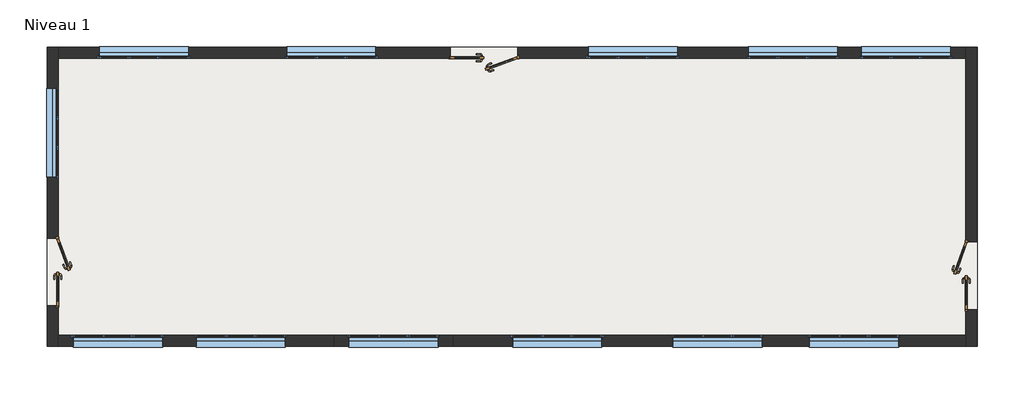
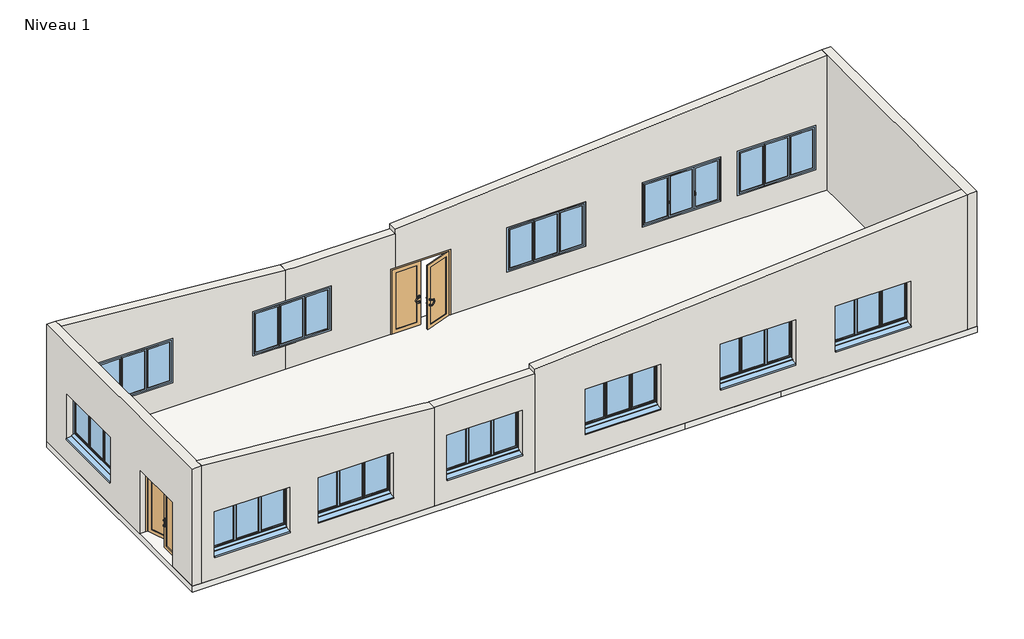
# One storey: 12 windows, 8 walls, 3 doors, 1 slab.
"""IFC4 building model written with IfcOpenShell, lengths in millimetres."""

from ifc_helpers import new_model, si_unit, frame, origin, place, context, project, spatial, polyline, outline, extrude, faceted_brep, transform, mapped, element, save
from components import ext_double_d632f14f, ext_double_bc6d21ab, window_30ed7840

model = new_model("IFC4")

# Units and contexts
model_context = context("Model", 3, world=origin())
ifc_project = project(units=[si_unit("LENGTHUNIT", "METRE", prefix="MILLI")], contexts=[model_context])

# Site, building, storey
site = spatial("IfcSite", under=ifc_project)
building = spatial("IfcBuilding", under=site)
storey = spatial("IfcBuildingStorey", under=building, Name="Niveau 1", Elevation=3300.0)

# Doors
placement = place(None, origin())
ext_double_shape = ext_double_d632f14f(model_context)
element("IfcDoor", 1, ObjectType="Ext. Double : Vitrée - 1.80 m x 2.15 m", at=placement, inside=storey, context=model_context, shape_type="MappedRepresentation", body=[
    mapped(ext_double_shape, transform((12430.4855864, -3140.8814156, 3300.0), x_axis=(0.0, -1.0, 0.0), y_axis=(1.0, 0.0, 0.0), z_axis=(0.0, 0.0, 1.0))),
])
ext_double_2_shape = ext_double_bc6d21ab(model_context)
element("IfcDoor", 2, ObjectType="Ext. Double : Vitrée - 1.80 m x 2.15 m", at=placement, inside=storey, context=model_context, shape_type="MappedRepresentation", body=[
    mapped(ext_double_2_shape, transform((-663.958769, 2859.1185844, 3300.0), x_axis=(-1.0, 0.0, 0.0), y_axis=(0.0, -1.0, 0.0), z_axis=(0.0, 0.0, 1.0))),
])
element("IfcDoor", 3, ObjectType="Ext. Double : Vitrée - 1.80 m x 2.15 m", at=placement, inside=storey, context=model_context, shape_type="MappedRepresentation", body=[
    mapped(ext_double_2_shape, transform((-12233.9657883, -3040.8814156, 3300.0), x_axis=(0.0, -1.0, 0.0), y_axis=(1.0, 0.0, 0.0), z_axis=(0.0, 0.0, 1.0))),
])

# Slab
element("IfcSlab", 4, ObjectType="Dalle en béton - 200", at=placement, inside=storey, context=model_context, shape_type="SweptSolid", body=[
    extrude(outline(polyline([(3280.5386339, 3009.1185844), (6360.5386339, 3009.1185844), (12600.4855864, 3009.1185844), (12600.4855864, -5025.8814156), (6360.5386339, -5025.8814156), (3280.5386339, -5025.8814156), (3280.5386339, -5030.8814156), (-12383.9657883, -5030.8814156), (-12383.9657883, 3009.1185844), (3280.5386339, 3009.1185844)])), frame((0.0, 0.0, 3100.0), z_axis=(0.0, 0.0, 1.0), x_axis=(1.0, 0.0, 0.0)), (0.0, 0.0, 1.0), 200.0),
])

# Walls
element("IfcWall", 5, ObjectType="Ext. Voile BA 18 + Isolant 12", at=placement, inside=storey, context=model_context, shape_type="Brep", body=[
    faceted_brep([(12280.4855864, -5030.8814156, 7840.0), (12280.4855864, 3009.1185844, 7840.0), (12280.4855864, 3009.1185844, 3300.0), (12280.4855864, 2709.1185844, 3300.0), (12280.4855864, -2180.8814156, 3300.0), (12280.4855864, -2180.8814156, 5500.0), (12280.4855864, -4080.8814156, 5500.0), (12280.4855864, -4080.8814156, 3300.0), (12280.4855864, -4730.8814156, 3300.0), (12280.4855864, -5030.8814156, 3300.0), (12580.4855864, 3009.1185844, 7840.0), (12580.4855864, -5030.8814156, 7840.0), (12580.4855864, -5030.8814156, 3300.0), (12580.4855864, -4040.8814156, 3300.0), (12580.4855864, -4040.8814156, 5460.0), (12580.4855864, -2220.8814156, 5460.0), (12580.4855864, -2220.8814156, 3300.0), (12580.4855864, 3009.1185844, 3300.0), (12330.4855864, -4080.8814156, 3300.0), (12330.4855864, -4050.8814156, 3300.0), (12380.4855864, -4050.8814156, 3300.0), (12380.4855864, -4040.8814156, 3300.0), (12380.4855864, -2220.8814156, 3300.0), (12380.4855864, -2210.8814156, 3300.0), (12330.4855864, -2210.8814156, 3300.0), (12330.4855864, -2180.8814156, 3300.0), (12380.4855864, -4040.8814156, 5460.0), (12380.4855864, -2220.8814156, 5460.0), (12330.4855864, -2210.8814156, 5470.0), (12330.4855864, -4050.8814156, 5470.0), (12330.4855864, -4080.8814156, 5500.0), (12330.4855864, -2180.8814156, 5500.0), (12380.4855864, -2210.8814156, 5470.0), (12380.4855864, -4050.8814156, 5470.0)], [[[0, 1, 2, 3, 4, 5, 6, 7, 8, 9]], [[10, 11, 12, 13, 14, 15, 16, 17]], [[12, 9, 8, 7, 18, 19, 20, 21, 13]], [[2, 17, 16, 22, 23, 24, 25, 4, 3]], [[1, 0, 11, 10]], [[0, 9, 12, 11]], [[2, 1, 10, 17]], [[26, 27, 15, 14]], [[21, 26, 14, 13]], [[27, 22, 16, 15]], [[24, 28, 29, 19, 18, 30, 31, 25]], [[28, 24, 23, 32]], [[27, 26, 21, 20, 33, 32, 23, 22]], [[25, 31, 5, 4]], [[29, 28, 32, 33]], [[31, 30, 6, 5]], [[19, 29, 33, 20]], [[30, 18, 7, 6]]]),
])
element("IfcWall", 6, ObjectType="Ext. Voile BA 18 + Isolant 12", at=placement, inside=storey, context=model_context, shape_type="Brep", body=[
    faceted_brep([(-12083.9657883, 3009.1185844, 7240.0), (-12083.9657883, -5030.8814156, 7240.0), (-12083.9657883, -5030.8814156, 3300.0), (-12083.9657883, -4730.8814156, 3300.0), (-12083.9657883, -3980.8814156, 3300.0), (-12083.9657883, -3980.8814156, 5500.0), (-12083.9657883, -2080.8814156, 5500.0), (-12083.9657883, -2080.8814156, 3300.0), (-12083.9657883, 2709.1185844, 3300.0), (-12083.9657883, 3009.1185844, 3300.0), (-12083.9657883, 1959.1185844, 4100.0), (-12083.9657883, -540.8814156, 4100.0), (-12083.9657883, -540.8814156, 5600.0), (-12083.9657883, 1959.1185844, 5600.0), (-12383.9657883, -5030.8814156, 7240.0), (-12383.9657883, 3009.1185844, 7240.0), (-12383.9657883, 3009.1185844, 3300.0), (-12383.9657883, -2120.8814156, 3300.0), (-12383.9657883, -2120.8814156, 5460.0), (-12383.9657883, -3940.8814156, 5460.0), (-12383.9657883, -3940.8814156, 3300.0), (-12383.9657883, -5030.8814156, 3300.0), (-12383.9657883, -490.8814156, 5550.0), (-12383.9657883, -490.8814156, 4020.0), (-12383.9657883, 1909.1185844, 4020.0), (-12383.9657883, 1909.1185844, 5550.0), (-12133.9657883, -2080.8814156, 3300.0), (-12133.9657883, -2110.8814156, 3300.0), (-12183.9657883, -2110.8814156, 3300.0), (-12183.9657883, -2120.8814156, 3300.0), (-12183.9657883, -3940.8814156, 3300.0), (-12183.9657883, -3950.8814156, 3300.0), (-12133.9657883, -3950.8814156, 3300.0), (-12133.9657883, -3980.8814156, 3300.0), (-12163.9657883, -490.8814156, 4100.0), (-12163.9657883, -490.8814156, 4020.0), (-12183.9657883, -490.8814156, 5550.0), (-12183.9657883, -490.8814156, 4100.0), (-12163.9657883, 1909.1185844, 4020.0), (-12163.9657883, 1909.1185844, 4100.0), (-12183.9657883, 1909.1185844, 4100.0), (-12183.9657883, 1909.1185844, 5550.0), (-12183.9657883, -500.8814156, 4100.0), (-12133.9657883, -500.8814156, 4100.0), (-12133.9657883, -540.8814156, 4100.0), (-12133.9657883, 1959.1185844, 4100.0), (-12133.9657883, 1919.1185844, 4100.0), (-12183.9657883, 1919.1185844, 4100.0), (-12133.9657883, -540.8814156, 5600.0), (-12133.9657883, -500.8814156, 5560.0), (-12133.9657883, 1919.1185844, 5560.0), (-12133.9657883, 1959.1185844, 5600.0), (-12183.9657883, -500.8814156, 5560.0), (-12183.9657883, 1919.1185844, 5560.0), (-12183.9657883, -2120.8814156, 5460.0), (-12183.9657883, -3940.8814156, 5460.0), (-12133.9657883, -2080.8814156, 5500.0), (-12133.9657883, -3980.8814156, 5500.0), (-12133.9657883, -3950.8814156, 5470.0), (-12133.9657883, -2110.8814156, 5470.0), (-12183.9657883, -2110.8814156, 5470.0), (-12183.9657883, -3950.8814156, 5470.0)], [[[0, 1, 2, 3, 4, 5, 6, 7, 8, 9], [10, 11, 12, 13]], [[14, 15, 16, 17, 18, 19, 20, 21], [22, 23, 24, 25]], [[16, 9, 8, 7, 26, 27, 28, 29, 17]], [[2, 21, 20, 30, 31, 32, 33, 4, 3]], [[1, 0, 15, 14]], [[0, 9, 16, 15]], [[2, 1, 14, 21]], [[34, 35, 23, 22, 36, 37]], [[38, 39, 40, 41, 25, 24]], [[35, 38, 24, 23]], [[35, 34, 39, 38]], [[22, 25, 41, 36]], [[39, 34, 37, 42, 43, 44, 11, 10, 45, 46, 47, 40]], [[11, 44, 48, 12]], [[44, 43, 49, 50, 46, 45, 51, 48]], [[43, 42, 52, 49]], [[42, 37, 36, 41, 40, 47, 53, 52]], [[12, 48, 51, 13]], [[50, 49, 52, 53]], [[51, 45, 10, 13]], [[46, 50, 53, 47]], [[54, 55, 19, 18]], [[55, 30, 20, 19]], [[29, 54, 18, 17]], [[26, 56, 57, 33, 32, 58, 59, 27]], [[27, 59, 60, 28]], [[55, 54, 29, 28, 60, 61, 31, 30]], [[56, 26, 7, 6]], [[59, 58, 61, 60]], [[57, 56, 6, 5]], [[58, 32, 31, 61]], [[33, 57, 5, 4]]]),
])
element("IfcWall", 7, ObjectType="Ext. Voile BA 18 + Isolant 12", at=placement, inside=storey, context=model_context, shape_type="Brep", body=[
    faceted_brep([(-4685.3436617, -4730.8814156, 3300.0), (-12083.9657883, -4730.8814156, 3300.0), (-12083.9657883, -4730.8814156, 7240.0), (-4858.7495049, -4730.8814156, 6630.0), (-4685.3436617, -4730.8814156, 6615.3599449), (-11733.9657883, -4730.8814156, 4100.0), (-9233.9657883, -4730.8814156, 4100.0), (-9233.9657883, -4730.8814156, 5600.0), (-11733.9657883, -4730.8814156, 5600.0), (-8435.3436617, -4730.8814156, 4100.0), (-5935.3436617, -4730.8814156, 4100.0), (-5935.3436617, -4730.8814156, 5600.0), (-8435.3436617, -4730.8814156, 5600.0), (-4685.3436617, -5030.8814156, 3300.0), (-4685.3436617, -5030.8814156, 6615.3599449), (-12083.9657883, -5030.8814156, 7240.0), (-12083.9657883, -5030.8814156, 3300.0), (-9283.9657883, -5030.8814156, 5550.0), (-9283.9657883, -5030.8814156, 4020.0), (-11683.9657883, -5030.8814156, 4020.0), (-11683.9657883, -5030.8814156, 5550.0), (-5985.3436617, -5030.8814156, 5550.0), (-5985.3436617, -5030.8814156, 4020.0), (-8385.3436617, -5030.8814156, 4020.0), (-8385.3436617, -5030.8814156, 5550.0), (-4685.3436617, -4733.5814156, 6615.3599449), (-9283.9657883, -4810.8814156, 4100.0), (-9283.9657883, -4810.8814156, 4020.0), (-9283.9657883, -4830.8814156, 5550.0), (-9283.9657883, -4830.8814156, 4100.0), (-11683.9657883, -4810.8814156, 4020.0), (-11683.9657883, -4810.8814156, 4100.0), (-11683.9657883, -4830.8814156, 4100.0), (-11683.9657883, -4830.8814156, 5550.0), (-9273.9657883, -4830.8814156, 4100.0), (-9273.9657883, -4780.8814156, 4100.0), (-9233.9657883, -4780.8814156, 4100.0), (-11733.9657883, -4780.8814156, 4100.0), (-11693.9657883, -4780.8814156, 4100.0), (-11693.9657883, -4830.8814156, 4100.0), (-9233.9657883, -4780.8814156, 5600.0), (-9273.9657883, -4780.8814156, 5560.0), (-11693.9657883, -4780.8814156, 5560.0), (-11733.9657883, -4780.8814156, 5600.0), (-9273.9657883, -4830.8814156, 5560.0), (-11693.9657883, -4830.8814156, 5560.0), (-5985.3436617, -4810.8814156, 4100.0), (-5985.3436617, -4810.8814156, 4020.0), (-5985.3436617, -4830.8814156, 5550.0), (-5985.3436617, -4830.8814156, 4100.0), (-8385.3436617, -4810.8814156, 4020.0), (-8385.3436617, -4810.8814156, 4100.0), (-8385.3436617, -4830.8814156, 4100.0), (-8385.3436617, -4830.8814156, 5550.0), (-5975.3436617, -4830.8814156, 4100.0), (-5975.3436617, -4780.8814156, 4100.0), (-5935.3436617, -4780.8814156, 4100.0), (-8435.3436617, -4780.8814156, 4100.0), (-8395.3436617, -4780.8814156, 4100.0), (-8395.3436617, -4830.8814156, 4100.0), (-5935.3436617, -4780.8814156, 5600.0), (-5975.3436617, -4780.8814156, 5560.0), (-8395.3436617, -4780.8814156, 5560.0), (-8435.3436617, -4780.8814156, 5600.0), (-5975.3436617, -4830.8814156, 5560.0), (-8395.3436617, -4830.8814156, 5560.0)], [[[0, 1, 2, 3, 4], [5, 6, 7, 8], [9, 10, 11, 12]], [[13, 14, 15, 16], [17, 18, 19, 20], [21, 22, 23, 24]], [[1, 0, 13, 16]], [[0, 4, 25, 14, 13]], [[4, 3, 2, 15, 14, 25]], [[2, 1, 16, 15]], [[26, 27, 18, 17, 28, 29]], [[30, 31, 32, 33, 20, 19]], [[27, 30, 19, 18]], [[27, 26, 31, 30]], [[17, 20, 33, 28]], [[31, 26, 29, 34, 35, 36, 6, 5, 37, 38, 39, 32]], [[6, 36, 40, 7]], [[36, 35, 41, 42, 38, 37, 43, 40]], [[35, 34, 44, 41]], [[34, 29, 28, 33, 32, 39, 45, 44]], [[7, 40, 43, 8]], [[42, 41, 44, 45]], [[43, 37, 5, 8]], [[38, 42, 45, 39]], [[46, 47, 22, 21, 48, 49]], [[50, 51, 52, 53, 24, 23]], [[47, 50, 23, 22]], [[47, 46, 51, 50]], [[21, 24, 53, 48]], [[51, 46, 49, 54, 55, 56, 10, 9, 57, 58, 59, 52]], [[10, 56, 60, 11]], [[56, 55, 61, 62, 58, 57, 63, 60]], [[55, 54, 64, 61]], [[54, 49, 48, 53, 52, 59, 65, 64]], [[11, 60, 63, 12]], [[62, 61, 64, 65]], [[63, 57, 9, 12]], [[58, 62, 65, 59]]]),
])
element("IfcWall", 8, ObjectType="Ext. Voile BA 18 + Isolant 12", at=placement, inside=storey, context=model_context, shape_type="Brep", body=[
    faceted_brep([(-12083.9657883, 2709.1185844, 3300.0), (-4952.668752, 2709.1185844, 3300.0), (-4952.668752, 2709.1185844, 4100.0), (-5952.668752, 2709.1185844, 4100.0), (-6002.668752, 2709.1185844, 4100.0), (-6002.668752, 2709.1185844, 5600.0), (-4952.668752, 2709.1185844, 5600.0), (-4952.668752, 2709.1185844, 6630.0), (-4952.668752, 2709.1185844, 6637.9292769), (-12083.9657883, 2709.1185844, 7240.0), (-8533.9657883, 2709.1185844, 4100.0), (-11033.9657883, 2709.1185844, 4100.0), (-11033.9657883, 2709.1185844, 5600.0), (-8533.9657883, 2709.1185844, 5600.0), (-4952.668752, 3009.1185844, 3300.0), (-12083.9657883, 3009.1185844, 3300.0), (-12083.9657883, 3009.1185844, 7240.0), (-4952.668752, 3009.1185844, 6637.9292769), (-4952.668752, 3009.1185844, 6630.0), (-4952.668752, 3009.1185844, 5550.0), (-5952.668752, 3009.1185844, 5550.0), (-5952.668752, 3009.1185844, 4020.0), (-4952.668752, 3009.1185844, 4020.0), (-10983.9657883, 3009.1185844, 5550.0), (-10983.9657883, 3009.1185844, 4020.0), (-8583.9657883, 3009.1185844, 4020.0), (-8583.9657883, 3009.1185844, 5550.0), (-4952.668752, 2759.1185844, 5600.0), (-4952.668752, 2759.1185844, 5560.0), (-4952.668752, 2809.1185844, 5560.0), (-4952.668752, 2809.1185844, 5550.0), (-4952.668752, 2789.1185844, 4020.0), (-4952.668752, 2789.1185844, 4100.0), (-10983.9657883, 2789.1185844, 4100.0), (-10983.9657883, 2789.1185844, 4020.0), (-10983.9657883, 2809.1185844, 5550.0), (-10983.9657883, 2809.1185844, 4100.0), (-8583.9657883, 2789.1185844, 4020.0), (-8583.9657883, 2789.1185844, 4100.0), (-8583.9657883, 2809.1185844, 4100.0), (-8583.9657883, 2809.1185844, 5550.0), (-10993.9657883, 2809.1185844, 4100.0), (-10993.9657883, 2759.1185844, 4100.0), (-11033.9657883, 2759.1185844, 4100.0), (-8533.9657883, 2759.1185844, 4100.0), (-8573.9657883, 2759.1185844, 4100.0), (-8573.9657883, 2809.1185844, 4100.0), (-11033.9657883, 2759.1185844, 5600.0), (-10993.9657883, 2759.1185844, 5560.0), (-8573.9657883, 2759.1185844, 5560.0), (-8533.9657883, 2759.1185844, 5600.0), (-10993.9657883, 2809.1185844, 5560.0), (-8573.9657883, 2809.1185844, 5560.0), (-5952.668752, 2789.1185844, 4100.0), (-5952.668752, 2789.1185844, 4020.0), (-5952.668752, 2809.1185844, 5550.0), (-5952.668752, 2809.1185844, 4100.0), (-5962.668752, 2809.1185844, 4100.0), (-5962.668752, 2759.1185844, 4100.0), (-6002.668752, 2759.1185844, 4100.0), (-6002.668752, 2759.1185844, 5600.0), (-5962.668752, 2759.1185844, 5560.0), (-5962.668752, 2809.1185844, 5560.0)], [[[0, 1, 2, 3, 4, 5, 6, 7, 8, 9], [10, 11, 12, 13]], [[14, 15, 16, 17, 18, 19, 20, 21, 22], [23, 24, 25, 26]], [[1, 0, 15, 14]], [[17, 8, 7, 6, 27, 28, 29, 30, 19, 18]], [[1, 14, 22, 31, 32, 2]], [[0, 9, 16, 15]], [[9, 8, 17, 16]], [[33, 34, 24, 23, 35, 36]], [[37, 38, 39, 40, 26, 25]], [[24, 34, 37, 25]], [[34, 33, 38, 37]], [[35, 23, 26, 40]], [[33, 36, 41, 42, 43, 11, 10, 44, 45, 46, 39, 38]], [[11, 43, 47, 12]], [[43, 42, 48, 49, 45, 44, 50, 47]], [[42, 41, 51, 48]], [[36, 35, 40, 39, 46, 52, 51, 41]], [[12, 47, 50, 13]], [[49, 48, 51, 52]], [[44, 10, 13, 50]], [[46, 45, 49, 52]], [[53, 54, 21, 20, 55, 56]], [[53, 56, 57, 58, 59, 4, 3, 2, 32]], [[55, 20, 19, 30]], [[21, 54, 31, 22]], [[54, 53, 32, 31]], [[4, 59, 60, 5]], [[59, 58, 61, 28, 27, 60]], [[58, 57, 62, 61]], [[56, 55, 30, 29, 62, 57]], [[5, 60, 27, 6]], [[61, 62, 29, 28]]]),
])
element("IfcWall", 9, ObjectType="Ext. Voile BA 18 + Isolant 12", at=placement, inside=storey, context=model_context, shape_type="Brep", body=[
    faceted_brep([(12280.4855864, 2709.1185844, 3300.0), (12280.4855864, 2709.1185844, 7840.0), (-1453.958769, 2709.1185844, 6787.7386643), (-1453.958769, 2709.1185844, 6630.0), (-1453.958769, 2709.1185844, 5500.0), (296.041231, 2709.1185844, 5500.0), (296.041231, 2709.1185844, 3300.0), (4596.041231, 2709.1185844, 4100.0), (2096.041231, 2709.1185844, 4100.0), (2096.041231, 2709.1185844, 5600.0), (4596.041231, 2709.1185844, 5600.0), (8896.041231, 2709.1185844, 4100.0), (6396.041231, 2709.1185844, 4100.0), (6396.041231, 2709.1185844, 5600.0), (8896.041231, 2709.1185844, 5600.0), (11930.4855864, 2709.1185844, 4100.0), (9430.4855864, 2709.1185844, 4100.0), (9430.4855864, 2709.1185844, 5600.0), (11930.4855864, 2709.1185844, 5600.0), (12280.4855864, 3009.1185844, 7840.0), (12280.4855864, 3009.1185844, 3300.0), (256.041231, 3009.1185844, 3300.0), (256.041231, 3009.1185844, 5460.0), (-1453.958769, 3009.1185844, 5460.0), (-1453.958769, 3009.1185844, 6630.0), (-1453.958769, 3009.1185844, 6787.7386643), (2146.041231, 3009.1185844, 5550.0), (2146.041231, 3009.1185844, 4020.0), (4546.041231, 3009.1185844, 4020.0), (4546.041231, 3009.1185844, 5550.0), (6446.041231, 3009.1185844, 5550.0), (6446.041231, 3009.1185844, 4020.0), (8846.041231, 3009.1185844, 4020.0), (8846.041231, 3009.1185844, 5550.0), (9480.4855864, 3009.1185844, 5550.0), (9480.4855864, 3009.1185844, 4020.0), (11880.4855864, 3009.1185844, 4020.0), (11880.4855864, 3009.1185844, 5550.0), (296.041231, 2759.1185844, 3300.0), (266.041231, 2759.1185844, 3300.0), (266.041231, 2809.1185844, 3300.0), (256.041231, 2809.1185844, 3300.0), (-1453.958769, 2809.1185844, 5460.0), (-1453.958769, 2809.1185844, 5470.0), (-1453.958769, 2759.1185844, 5470.0), (-1453.958769, 2759.1185844, 5500.0), (2146.041231, 2789.1185844, 4100.0), (2146.041231, 2789.1185844, 4020.0), (2146.041231, 2809.1185844, 5550.0), (2146.041231, 2809.1185844, 4100.0), (4546.041231, 2789.1185844, 4020.0), (4546.041231, 2789.1185844, 4100.0), (4546.041231, 2809.1185844, 4100.0), (4546.041231, 2809.1185844, 5550.0), (2136.041231, 2809.1185844, 4100.0), (2136.041231, 2759.1185844, 4100.0), (2096.041231, 2759.1185844, 4100.0), (4596.041231, 2759.1185844, 4100.0), (4556.041231, 2759.1185844, 4100.0), (4556.041231, 2809.1185844, 4100.0), (2096.041231, 2759.1185844, 5600.0), (2136.041231, 2759.1185844, 5560.0), (4556.041231, 2759.1185844, 5560.0), (4596.041231, 2759.1185844, 5600.0), (2136.041231, 2809.1185844, 5560.0), (4556.041231, 2809.1185844, 5560.0), (6446.041231, 2789.1185844, 4100.0), (6446.041231, 2789.1185844, 4020.0), (6446.041231, 2809.1185844, 5550.0), (6446.041231, 2809.1185844, 4100.0), (8846.041231, 2789.1185844, 4020.0), (8846.041231, 2789.1185844, 4100.0), (8846.041231, 2809.1185844, 4100.0), (8846.041231, 2809.1185844, 5550.0), (6436.041231, 2809.1185844, 4100.0), (6436.041231, 2759.1185844, 4100.0), (6396.041231, 2759.1185844, 4100.0), (8896.041231, 2759.1185844, 4100.0), (8856.041231, 2759.1185844, 4100.0), (8856.041231, 2809.1185844, 4100.0), (6396.041231, 2759.1185844, 5600.0), (6436.041231, 2759.1185844, 5560.0), (8856.041231, 2759.1185844, 5560.0), (8896.041231, 2759.1185844, 5600.0), (6436.041231, 2809.1185844, 5560.0), (8856.041231, 2809.1185844, 5560.0), (9480.4855864, 2789.1185844, 4100.0), (9480.4855864, 2789.1185844, 4020.0), (9480.4855864, 2809.1185844, 5550.0), (9480.4855864, 2809.1185844, 4100.0), (11880.4855864, 2789.1185844, 4020.0), (11880.4855864, 2789.1185844, 4100.0), (11880.4855864, 2809.1185844, 4100.0), (11880.4855864, 2809.1185844, 5550.0), (9470.4855864, 2809.1185844, 4100.0), (9470.4855864, 2759.1185844, 4100.0), (9430.4855864, 2759.1185844, 4100.0), (11930.4855864, 2759.1185844, 4100.0), (11890.4855864, 2759.1185844, 4100.0), (11890.4855864, 2809.1185844, 4100.0), (9430.4855864, 2759.1185844, 5600.0), (9470.4855864, 2759.1185844, 5560.0), (11890.4855864, 2759.1185844, 5560.0), (11930.4855864, 2759.1185844, 5600.0), (9470.4855864, 2809.1185844, 5560.0), (11890.4855864, 2809.1185844, 5560.0), (256.041231, 2809.1185844, 5460.0), (296.041231, 2759.1185844, 5500.0), (266.041231, 2759.1185844, 5470.0), (266.041231, 2809.1185844, 5470.0)], [[[0, 1, 2, 3, 4, 5, 6], [7, 8, 9, 10], [11, 12, 13, 14], [15, 16, 17, 18]], [[19, 20, 21, 22, 23, 24, 25], [26, 27, 28, 29], [30, 31, 32, 33], [34, 35, 36, 37]], [[20, 0, 6, 38, 39, 40, 41, 21]], [[2, 25, 24, 23, 42, 43, 44, 45, 4, 3]], [[1, 0, 20, 19]], [[2, 1, 19, 25]], [[46, 47, 27, 26, 48, 49]], [[50, 51, 52, 53, 29, 28]], [[47, 50, 28, 27]], [[47, 46, 51, 50]], [[26, 29, 53, 48]], [[51, 46, 49, 54, 55, 56, 8, 7, 57, 58, 59, 52]], [[8, 56, 60, 9]], [[56, 55, 61, 62, 58, 57, 63, 60]], [[55, 54, 64, 61]], [[54, 49, 48, 53, 52, 59, 65, 64]], [[9, 60, 63, 10]], [[62, 61, 64, 65]], [[63, 57, 7, 10]], [[58, 62, 65, 59]], [[66, 67, 31, 30, 68, 69]], [[70, 71, 72, 73, 33, 32]], [[67, 70, 32, 31]], [[67, 66, 71, 70]], [[30, 33, 73, 68]], [[71, 66, 69, 74, 75, 76, 12, 11, 77, 78, 79, 72]], [[12, 76, 80, 13]], [[76, 75, 81, 82, 78, 77, 83, 80]], [[75, 74, 84, 81]], [[74, 69, 68, 73, 72, 79, 85, 84]], [[13, 80, 83, 14]], [[82, 81, 84, 85]], [[83, 77, 11, 14]], [[78, 82, 85, 79]], [[86, 87, 35, 34, 88, 89]], [[90, 91, 92, 93, 37, 36]], [[87, 90, 36, 35]], [[87, 86, 91, 90]], [[34, 37, 93, 88]], [[91, 86, 89, 94, 95, 96, 16, 15, 97, 98, 99, 92]], [[16, 96, 100, 17]], [[96, 95, 101, 102, 98, 97, 103, 100]], [[95, 94, 104, 101]], [[94, 89, 88, 93, 92, 99, 105, 104]], [[17, 100, 103, 18]], [[102, 101, 104, 105]], [[103, 97, 15, 18]], [[98, 102, 105, 99]], [[22, 106, 42, 23]], [[41, 106, 22, 21]], [[38, 107, 45, 44, 108, 39]], [[39, 108, 109, 40]], [[106, 41, 40, 109, 43, 42]], [[107, 38, 6, 5]], [[109, 108, 44, 43]], [[45, 107, 5, 4]]]),
])
element("IfcWall", 10, ObjectType="Ext. Voile BA 18 + Isolant 12", at=placement, inside=storey, context=model_context, shape_type="Brep", body=[
    faceted_brep([(12280.4855864, -4730.8814156, 3300.0), (-1485.3436617, -4730.8814156, 3300.0), (-1485.3436617, -4730.8814156, 6630.0), (-1485.3436617, -4730.8814156, 6785.3341179), (12280.4855864, -4730.8814156, 7840.0), (64.6563383, -4730.8814156, 4100.0), (2564.6563383, -4730.8814156, 4100.0), (2564.6563383, -4730.8814156, 5600.0), (64.6563383, -4730.8814156, 5600.0), (4364.6563383, -4730.8814156, 4100.0), (6864.6563383, -4730.8814156, 4100.0), (6864.6563383, -4730.8814156, 5600.0), (4364.6563383, -4730.8814156, 5600.0), (8030.4855864, -4730.8814156, 4100.0), (10530.4855864, -4730.8814156, 4100.0), (10530.4855864, -4730.8814156, 5600.0), (8030.4855864, -4730.8814156, 5600.0), (12280.4855864, -5030.8814156, 3300.0), (12280.4855864, -5030.8814156, 7840.0), (-1485.3436617, -5030.8814156, 6785.3341179), (-1485.3436617, -5030.8814156, 6630.0), (-1485.3436617, -5030.8814156, 3300.0), (2514.6563383, -5030.8814156, 5550.0), (2514.6563383, -5030.8814156, 4020.0), (114.6563383, -5030.8814156, 4020.0), (114.6563383, -5030.8814156, 5550.0), (6814.6563383, -5030.8814156, 5550.0), (6814.6563383, -5030.8814156, 4020.0), (4414.6563383, -5030.8814156, 4020.0), (4414.6563383, -5030.8814156, 5550.0), (10480.4855864, -5030.8814156, 5550.0), (10480.4855864, -5030.8814156, 4020.0), (8080.4855864, -5030.8814156, 4020.0), (8080.4855864, -5030.8814156, 5550.0), (2514.6563383, -4810.8814156, 4100.0), (2514.6563383, -4810.8814156, 4020.0), (2514.6563383, -4830.8814156, 5550.0), (2514.6563383, -4830.8814156, 4100.0), (114.6563383, -4810.8814156, 4020.0), (114.6563383, -4810.8814156, 4100.0), (114.6563383, -4830.8814156, 4100.0), (114.6563383, -4830.8814156, 5550.0), (2524.6563383, -4830.8814156, 4100.0), (2524.6563383, -4780.8814156, 4100.0), (2564.6563383, -4780.8814156, 4100.0), (64.6563383, -4780.8814156, 4100.0), (104.6563383, -4780.8814156, 4100.0), (104.6563383, -4830.8814156, 4100.0), (2564.6563383, -4780.8814156, 5600.0), (2524.6563383, -4780.8814156, 5560.0), (104.6563383, -4780.8814156, 5560.0), (64.6563383, -4780.8814156, 5600.0), (2524.6563383, -4830.8814156, 5560.0), (104.6563383, -4830.8814156, 5560.0), (6814.6563383, -4810.8814156, 4100.0), (6814.6563383, -4810.8814156, 4020.0), (6814.6563383, -4830.8814156, 5550.0), (6814.6563383, -4830.8814156, 4100.0), (4414.6563383, -4810.8814156, 4020.0), (4414.6563383, -4810.8814156, 4100.0), (4414.6563383, -4830.8814156, 4100.0), (4414.6563383, -4830.8814156, 5550.0), (6824.6563383, -4830.8814156, 4100.0), (6824.6563383, -4780.8814156, 4100.0), (6864.6563383, -4780.8814156, 4100.0), (4364.6563383, -4780.8814156, 4100.0), (4404.6563383, -4780.8814156, 4100.0), (4404.6563383, -4830.8814156, 4100.0), (6864.6563383, -4780.8814156, 5600.0), (6824.6563383, -4780.8814156, 5560.0), (4404.6563383, -4780.8814156, 5560.0), (4364.6563383, -4780.8814156, 5600.0), (6824.6563383, -4830.8814156, 5560.0), (4404.6563383, -4830.8814156, 5560.0), (10480.4855864, -4810.8814156, 4100.0), (10480.4855864, -4810.8814156, 4020.0), (10480.4855864, -4830.8814156, 5550.0), (10480.4855864, -4830.8814156, 4100.0), (8080.4855864, -4810.8814156, 4020.0), (8080.4855864, -4810.8814156, 4100.0), (8080.4855864, -4830.8814156, 4100.0), (8080.4855864, -4830.8814156, 5550.0), (10490.4855864, -4830.8814156, 4100.0), (10490.4855864, -4780.8814156, 4100.0), (10530.4855864, -4780.8814156, 4100.0), (8030.4855864, -4780.8814156, 4100.0), (8070.4855864, -4780.8814156, 4100.0), (8070.4855864, -4830.8814156, 4100.0), (10530.4855864, -4780.8814156, 5600.0), (10490.4855864, -4780.8814156, 5560.0), (8070.4855864, -4780.8814156, 5560.0), (8030.4855864, -4780.8814156, 5600.0), (10490.4855864, -4830.8814156, 5560.0), (8070.4855864, -4830.8814156, 5560.0)], [[[0, 1, 2, 3, 4], [5, 6, 7, 8], [9, 10, 11, 12], [13, 14, 15, 16]], [[17, 18, 19, 20, 21], [22, 23, 24, 25], [26, 27, 28, 29], [30, 31, 32, 33]], [[1, 0, 17, 21]], [[3, 2, 1, 21, 20, 19]], [[0, 4, 18, 17]], [[4, 3, 19, 18]], [[34, 35, 23, 22, 36, 37]], [[38, 39, 40, 41, 25, 24]], [[35, 38, 24, 23]], [[35, 34, 39, 38]], [[22, 25, 41, 36]], [[39, 34, 37, 42, 43, 44, 6, 5, 45, 46, 47, 40]], [[6, 44, 48, 7]], [[44, 43, 49, 50, 46, 45, 51, 48]], [[43, 42, 52, 49]], [[42, 37, 36, 41, 40, 47, 53, 52]], [[7, 48, 51, 8]], [[50, 49, 52, 53]], [[51, 45, 5, 8]], [[46, 50, 53, 47]], [[54, 55, 27, 26, 56, 57]], [[58, 59, 60, 61, 29, 28]], [[55, 58, 28, 27]], [[55, 54, 59, 58]], [[26, 29, 61, 56]], [[59, 54, 57, 62, 63, 64, 10, 9, 65, 66, 67, 60]], [[10, 64, 68, 11]], [[64, 63, 69, 70, 66, 65, 71, 68]], [[63, 62, 72, 69]], [[62, 57, 56, 61, 60, 67, 73, 72]], [[11, 68, 71, 12]], [[70, 69, 72, 73]], [[71, 65, 9, 12]], [[66, 70, 73, 67]], [[74, 75, 31, 30, 76, 77]], [[78, 79, 80, 81, 33, 32]], [[75, 78, 32, 31]], [[75, 74, 79, 78]], [[30, 33, 81, 76]], [[79, 74, 77, 82, 83, 84, 14, 13, 85, 86, 87, 80]], [[14, 84, 88, 15]], [[84, 83, 89, 90, 86, 85, 91, 88]], [[83, 82, 92, 89]], [[82, 77, 76, 81, 80, 87, 93, 92]], [[15, 88, 91, 16]], [[90, 89, 92, 93]], [[91, 85, 13, 16]], [[86, 90, 93, 87]]]),
])
element("IfcWall", 11, ObjectType="Ext. Voile BA 18 + Isolant 12", at=placement, inside=storey, context=model_context, shape_type="Brep", body=[
    faceted_brep([(-1485.3436617, -4730.8814156, 3300.0), (-4685.3436617, -4730.8814156, 3300.0), (-4685.3436617, -4730.8814156, 6615.3599449), (-4685.3436617, -4730.8814156, 6630.0), (-4678.7495049, -4730.8814156, 6630.0), (-1485.3436617, -4730.8814156, 6630.0), (-4335.3436617, -4730.8814156, 4100.0), (-1835.3436617, -4730.8814156, 4100.0), (-1835.3436617, -4730.8814156, 5600.0), (-4335.3436617, -4730.8814156, 5600.0), (-1485.3436617, -5030.8814156, 3300.0), (-1485.3436617, -5030.8814156, 6630.0), (-4685.3436617, -5030.8814156, 6630.0), (-4685.3436617, -5030.8814156, 6615.3599449), (-4685.3436617, -5030.8814156, 3300.0), (-1885.3436617, -5030.8814156, 5550.0), (-1885.3436617, -5030.8814156, 4020.0), (-4285.3436617, -5030.8814156, 4020.0), (-4285.3436617, -5030.8814156, 5550.0), (-4685.3436617, -4733.5814156, 6630.0), (-1885.3436617, -4810.8814156, 4100.0), (-1885.3436617, -4810.8814156, 4020.0), (-1885.3436617, -4830.8814156, 5550.0), (-1885.3436617, -4830.8814156, 4100.0), (-4285.3436617, -4810.8814156, 4020.0), (-4285.3436617, -4810.8814156, 4100.0), (-4285.3436617, -4830.8814156, 4100.0), (-4285.3436617, -4830.8814156, 5550.0), (-1875.3436617, -4830.8814156, 4100.0), (-1875.3436617, -4780.8814156, 4100.0), (-1835.3436617, -4780.8814156, 4100.0), (-4335.3436617, -4780.8814156, 4100.0), (-4295.3436617, -4780.8814156, 4100.0), (-4295.3436617, -4830.8814156, 4100.0), (-1835.3436617, -4780.8814156, 5600.0), (-1875.3436617, -4780.8814156, 5560.0), (-4295.3436617, -4780.8814156, 5560.0), (-4335.3436617, -4780.8814156, 5600.0), (-1875.3436617, -4830.8814156, 5560.0), (-4295.3436617, -4830.8814156, 5560.0)], [[[0, 1, 2, 3, 4, 5], [6, 7, 8, 9]], [[10, 11, 12, 13, 14], [15, 16, 17, 18]], [[1, 0, 10, 14]], [[3, 2, 1, 14, 13, 12, 19]], [[5, 4, 3, 19, 12, 11]], [[0, 5, 11, 10]], [[20, 21, 16, 15, 22, 23]], [[24, 25, 26, 27, 18, 17]], [[21, 24, 17, 16]], [[21, 20, 25, 24]], [[15, 18, 27, 22]], [[25, 20, 23, 28, 29, 30, 7, 6, 31, 32, 33, 26]], [[7, 30, 34, 8]], [[30, 29, 35, 36, 32, 31, 37, 34]], [[29, 28, 38, 35]], [[28, 23, 22, 27, 26, 33, 39, 38]], [[8, 34, 37, 9]], [[36, 35, 38, 39]], [[37, 31, 6, 9]], [[32, 36, 39, 33]]]),
])
element("IfcWall", 12, ObjectType="Ext. Voile BA 18 + Isolant 12", at=placement, inside=storey, context=model_context, shape_type="Brep", body=[
    faceted_brep([(-1453.958769, 2709.1185844, 6630.0), (-1458.7495049, 2709.1185844, 6630.0), (-4678.7495049, 2709.1185844, 6630.0), (-4858.7495049, 2709.1185844, 6630.0), (-4952.668752, 2709.1185844, 6630.0), (-4952.668752, 2709.1185844, 5600.0), (-3502.668752, 2709.1185844, 5600.0), (-3502.668752, 2709.1185844, 4100.0), (-3552.668752, 2709.1185844, 4100.0), (-4952.668752, 2709.1185844, 4100.0), (-4952.668752, 2709.1185844, 3300.0), (-1603.958769, 2709.1185844, 3300.0), (-1603.958769, 2709.1185844, 5500.0), (-1453.958769, 2709.1185844, 5500.0), (-4952.668752, 3009.1185844, 6630.0), (-1453.958769, 3009.1185844, 6630.0), (-1453.958769, 3009.1185844, 5460.0), (-1563.958769, 3009.1185844, 5460.0), (-1563.958769, 3009.1185844, 3300.0), (-4952.668752, 3009.1185844, 3300.0), (-4952.668752, 3009.1185844, 4020.0), (-3552.668752, 3009.1185844, 4020.0), (-3552.668752, 3009.1185844, 5550.0), (-4952.668752, 3009.1185844, 5550.0), (-1563.958769, 2809.1185844, 3300.0), (-1573.958769, 2809.1185844, 3300.0), (-1573.958769, 2759.1185844, 3300.0), (-1603.958769, 2759.1185844, 3300.0), (-1453.958769, 2711.8185844, 6630.0), (-1453.958769, 2759.1185844, 5500.0), (-1453.958769, 2759.1185844, 5470.0), (-1453.958769, 2809.1185844, 5470.0), (-1453.958769, 2809.1185844, 5460.0), (-4952.668752, 2809.1185844, 5550.0), (-4952.668752, 2809.1185844, 5560.0), (-4952.668752, 2759.1185844, 5560.0), (-4952.668752, 2759.1185844, 5600.0), (-4952.668752, 2789.1185844, 4100.0), (-4952.668752, 2789.1185844, 4020.0), (-3552.668752, 2789.1185844, 4020.0), (-3552.668752, 2789.1185844, 4100.0), (-3552.668752, 2809.1185844, 4100.0), (-3552.668752, 2809.1185844, 5550.0), (-3502.668752, 2759.1185844, 4100.0), (-3542.668752, 2759.1185844, 4100.0), (-3542.668752, 2809.1185844, 4100.0), (-3502.668752, 2759.1185844, 5600.0), (-3542.668752, 2759.1185844, 5560.0), (-3542.668752, 2809.1185844, 5560.0), (-1563.958769, 2809.1185844, 5460.0), (-1603.958769, 2759.1185844, 5500.0), (-1573.958769, 2759.1185844, 5470.0), (-1573.958769, 2809.1185844, 5470.0)], [[[0, 1, 2, 3, 4, 5, 6, 7, 8, 9, 10, 11, 12, 13]], [[14, 15, 16, 17, 18, 19, 20, 21, 22, 23]], [[10, 19, 18, 24, 25, 26, 27, 11]], [[15, 28, 0, 13, 29, 30, 31, 32, 16]], [[4, 3, 2, 1, 0, 28, 15, 14]], [[4, 14, 23, 33, 34, 35, 36, 5]], [[19, 10, 9, 37, 38, 20]], [[39, 40, 41, 42, 22, 21]], [[41, 40, 37, 9, 8, 7, 43, 44, 45]], [[22, 42, 33, 23]], [[39, 21, 20, 38]], [[40, 39, 38, 37]], [[44, 43, 46, 36, 35, 47]], [[42, 41, 45, 48, 34, 33]], [[46, 6, 5, 36]], [[48, 47, 35, 34]], [[43, 7, 6, 46]], [[45, 44, 47, 48]], [[32, 49, 17, 16]], [[49, 24, 18, 17]], [[50, 27, 26, 51, 30, 29]], [[24, 49, 32, 31, 52, 25]], [[51, 52, 31, 30]], [[50, 29, 13, 12]], [[51, 26, 25, 52]], [[27, 50, 12, 11]]]),
])

# Windows
window_shape = window_30ed7840(model_context)
element("IfcWindow", 13, ObjectType="3 Vantaux - Droits : 2.40m x 1.45m - Appui Béton", at=placement, inside=storey, context=model_context, shape_type="MappedRepresentation", body=[
    mapped(window_shape, transform((1314.6563383, -4880.8814156, 3300.0), x_axis=(-1.0, 0.0, 0.0), y_axis=(0.0, -1.0, 0.0), z_axis=(0.0, 0.0, 1.0))),
])
element("IfcWindow", 14, ObjectType="3 Vantaux - Droits : 2.40m x 1.45m - Appui Béton", at=placement, inside=storey, context=model_context, shape_type="MappedRepresentation", body=[
    mapped(window_shape, transform((5614.6563383, -4880.8814156, 3300.0), x_axis=(-1.0, 0.0, 0.0), y_axis=(0.0, -1.0, 0.0), z_axis=(0.0, 0.0, 1.0))),
])
element("IfcWindow", 15, ObjectType="3 Vantaux - Droits : 2.40m x 1.45m - Appui Béton", at=placement, inside=storey, context=model_context, shape_type="MappedRepresentation", body=[
    mapped(window_shape, transform((9280.4855864, -4880.8814156, 3300.0), x_axis=(-1.0, 0.0, 0.0), y_axis=(0.0, -1.0, 0.0), z_axis=(0.0, 0.0, 1.0))),
])
element("IfcWindow", 16, ObjectType="3 Vantaux - Droits : 2.40m x 1.45m - Appui Béton", at=placement, inside=storey, context=model_context, shape_type="MappedRepresentation", body=[
    mapped(window_shape, transform((-9783.9657883, 2859.1185844, 3300.0), x_axis=(1.0, 0.0, 0.0), y_axis=(0.0, 1.0, 0.0), z_axis=(0.0, 0.0, 1.0))),
])
element("IfcWindow", 17, ObjectType="3 Vantaux - Droits : 2.40m x 1.45m - Appui Béton", at=placement, inside=storey, context=model_context, shape_type="MappedRepresentation", body=[
    mapped(window_shape, transform((-4752.668752, 2859.1185844, 3300.0), x_axis=(1.0, 0.0, 0.0), y_axis=(0.0, 1.0, 0.0), z_axis=(0.0, 0.0, 1.0))),
])
element("IfcWindow", 18, ObjectType="3 Vantaux - Droits : 2.40m x 1.45m - Appui Béton", at=placement, inside=storey, context=model_context, shape_type="MappedRepresentation", body=[
    mapped(window_shape, transform((3346.041231, 2859.1185844, 3300.0), x_axis=(1.0, 0.0, 0.0), y_axis=(0.0, 1.0, 0.0), z_axis=(0.0, 0.0, 1.0))),
])
element("IfcWindow", 19, ObjectType="3 Vantaux - Droits : 2.40m x 1.45m - Appui Béton", at=placement, inside=storey, context=model_context, shape_type="MappedRepresentation", body=[
    mapped(window_shape, transform((7646.041231, 2859.1185844, 3300.0), x_axis=(1.0, 0.0, 0.0), y_axis=(0.0, 1.0, 0.0), z_axis=(0.0, 0.0, 1.0))),
])
element("IfcWindow", 20, ObjectType="3 Vantaux - Droits : 2.40m x 1.45m - Appui Béton", at=placement, inside=storey, context=model_context, shape_type="MappedRepresentation", body=[
    mapped(window_shape, transform((10680.4855864, 2859.1185844, 3300.0), x_axis=(1.0, 0.0, 0.0), y_axis=(0.0, 1.0, 0.0), z_axis=(0.0, 0.0, 1.0))),
])
element("IfcWindow", 21, ObjectType="3 Vantaux - Droits : 2.40m x 1.45m - Appui Béton", at=placement, inside=storey, context=model_context, shape_type="MappedRepresentation", body=[
    mapped(window_shape, transform((-12233.9657883, 709.1185844, 3300.0), x_axis=(0.0, 1.0, 0.0), y_axis=(-1.0, 0.0, 0.0), z_axis=(0.0, 0.0, 1.0))),
])
element("IfcWindow", 22, ObjectType="3 Vantaux - Droits : 2.40m x 1.45m - Appui Béton", at=placement, inside=storey, context=model_context, shape_type="MappedRepresentation", body=[
    mapped(window_shape, transform((-10483.9657883, -4880.8814156, 3300.0), x_axis=(-1.0, 0.0, 0.0), y_axis=(0.0, -1.0, 0.0), z_axis=(0.0, 0.0, 1.0))),
])
element("IfcWindow", 23, ObjectType="3 Vantaux - Droits : 2.40m x 1.45m - Appui Béton", at=placement, inside=storey, context=model_context, shape_type="MappedRepresentation", body=[
    mapped(window_shape, transform((-7185.3436617, -4880.8814156, 3300.0), x_axis=(-1.0, 0.0, 0.0), y_axis=(0.0, -1.0, 0.0), z_axis=(0.0, 0.0, 1.0))),
])
element("IfcWindow", 24, ObjectType="3 Vantaux - Droits : 2.40m x 1.45m - Appui Béton", at=placement, inside=storey, context=model_context, shape_type="MappedRepresentation", body=[
    mapped(window_shape, transform((-3085.3436617, -4880.8814156, 3300.0), x_axis=(-1.0, 0.0, 0.0), y_axis=(0.0, -1.0, 0.0), z_axis=(0.0, 0.0, 1.0))),
])

save(model, "model.ifc")
